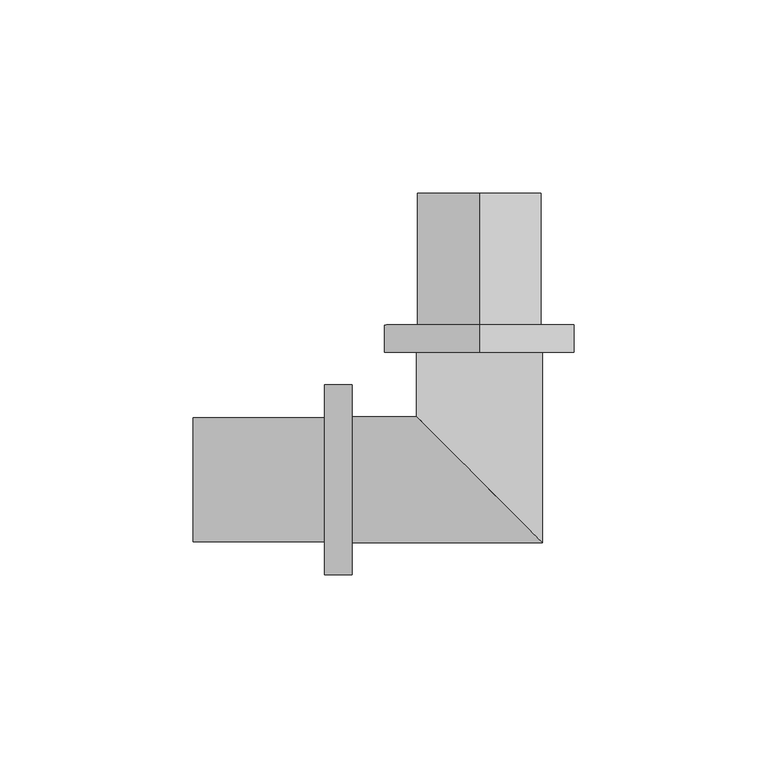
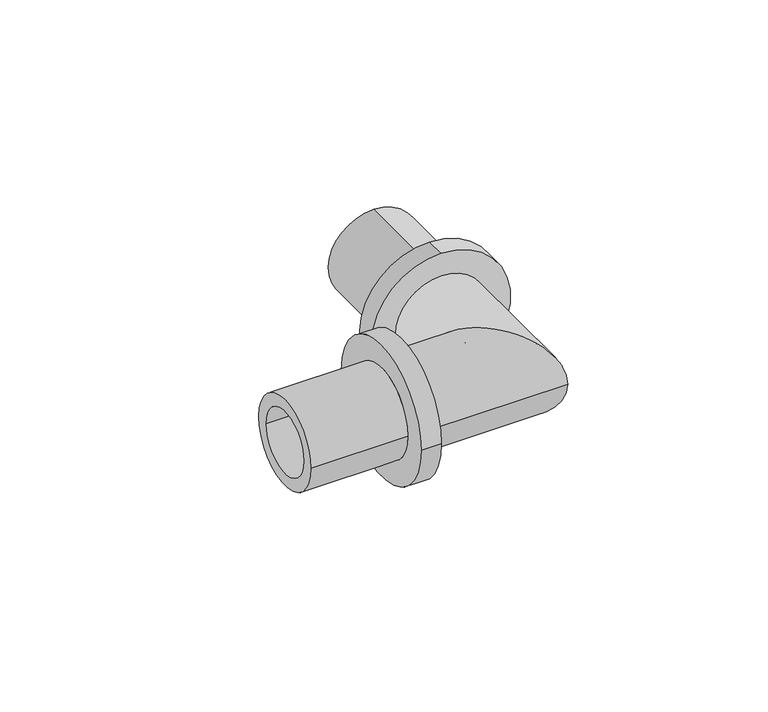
"""IFC4 building model written with IfcOpenShell, lengths in millimetres: pipe fitting geometry, RAUTITAN_Corner_LX : RTI LX C NL."""

from ifc_helpers import new_model, si_unit, frame, origin, place, context, project, spatial, polyline, circle_curve, ellipse_curve, source, transform, mapped, element, save
from ifc_brep_helpers import plane_surface, cylinder_surface, revolved_surface, advanced_brep


def pipe_fitting_9b72dc0c(model_context):
    return source(origin(), model_context, "Body", "AdvancedBrep", [
        advanced_brep(
        [(0.0, 40.0, 24.5), (0.0, 40.0, -24.5), (0.0, 33.0, -24.5), (0.0, 33.0, 24.5), (0.0, 74.0, 16.0), (0.0, 74.0, -16.0), (0.0, 40.0, -16.0), (0.0, 40.0, 16.0), (0.0, 33.0, 11.5), (0.0, 33.0, -11.5), (0.0, 74.0, -11.5), (0.0, 74.0, 11.5)],
        [
            (0, 1, circle_curve(frame((0.0, 40.0, 0.0), z_axis=(0.0, -1.0, 0.0), x_axis=(0.0, 0.0, -1.0)), 24.5)),
            (1, 2),
            (2, 3, circle_curve(frame((0.0, 33.0, 0.0), z_axis=(0.0, 1.0, 0.0), x_axis=(0.0, 0.0, -1.0)), 24.5)),
            (3, 0),
            (4, 5, circle_curve(frame((0.0, 74.0, 0.0), z_axis=(0.0, -1.0, 0.0), x_axis=(0.0, 0.0, -1.0)), 16.0)),
            (5, 6),
            (6, 7, circle_curve(frame((0.0, 40.0, 0.0), z_axis=(0.0, 1.0, 0.0), x_axis=(0.0, 0.0, -1.0)), 16.0)),
            (7, 4),
            (8, 9, circle_curve(frame((0.0, 33.0, 0.0), z_axis=(0.0, -1.0, 0.0), x_axis=(0.0, 0.0, -1.0)), 11.5)),
            (9, 10),
            (10, 11, circle_curve(frame((0.0, 74.0, 0.0), z_axis=(0.0, 1.0, 0.0), x_axis=(0.0, 0.0, -1.0)), 11.5)),
            (11, 8),
            (1, 0, circle_curve(frame((0.0, 40.0, 0.0), z_axis=(0.0, -1.0, 0.0), x_axis=(0.0, 0.0, 1.0)), 24.5)),
            (3, 2, circle_curve(frame((0.0, 33.0, 0.0), z_axis=(0.0, 1.0, 0.0), x_axis=(0.0, 0.0, 1.0)), 24.5)),
            (6, 7, circle_curve(frame((0.0, 40.0, 0.0), z_axis=(0.0, -1.0, 0.0), x_axis=(0.0, 0.0, 1.0)), 16.0)),
            (5, 4, circle_curve(frame((0.0, 74.0, 0.0), z_axis=(0.0, -1.0, 0.0), x_axis=(0.0, 0.0, 1.0)), 16.0)),
            (10, 11, circle_curve(frame((0.0, 74.0, 0.0), z_axis=(0.0, -1.0, 0.0), x_axis=(0.0, 0.0, 1.0)), 11.5)),
            (9, 8, circle_curve(frame((0.0, 33.0, 0.0), z_axis=(0.0, -1.0, 0.0), x_axis=(0.0, 0.0, 1.0)), 11.5)),
        ],
        [
            cylinder_surface(frame((0.0, 33.0, 0.0), z_axis=(0.0, 1.0, 0.0), x_axis=(0.0, 0.0, -1.0)), 24.5),
            cylinder_surface(frame((0.0, 33.0, 0.0), z_axis=(0.0, 1.0, 0.0), x_axis=(0.0, 0.0, -1.0)), 16.0),
            revolved_surface(polyline([(0.0, 74.0, -11.5), (0.0, 33.0, -11.5)]), (0.0, 33.0, 0.0), (0.0, 1.0, 0.0)),
            cylinder_surface(frame((0.0, 33.0, 0.0), z_axis=(0.0, 1.0, 0.0), x_axis=(0.0, 0.0, 1.0)), 24.5),
            plane_surface(frame((0.0, 40.0, 0.0), z_axis=(0.0, 1.0, 0.0), x_axis=(0.0, 0.0, 1.0))),
            cylinder_surface(frame((0.0, 33.0, 0.0), z_axis=(0.0, 1.0, 0.0), x_axis=(0.0, 0.0, 1.0)), 16.0),
            plane_surface(frame((0.0, 74.0, 0.0), z_axis=(0.0, 1.0, 0.0), x_axis=(0.0, 0.0, 1.0))),
            revolved_surface(polyline([(0.0, 74.0, 11.5), (0.0, 33.0, 11.5)]), (0.0, 33.0, 0.0), (0.0, 1.0, 0.0)),
            plane_surface(frame((0.0, 33.0, 0.0), z_axis=(0.0, -1.0, 0.0), x_axis=(0.0, 0.0, 1.0))),
        ],
        [
            (0, [[1, 2, 3, 4]]),
            (1, [[5, 6, 7, 8]]),
            (2, [[9, 10, 11, 12]]),
            (3, [[13, -4, 14, -2]]),
            (4, [[-13, -1], [15, -7]]),
            (5, [[16, -8, -15, -6]]),
            (6, [[-16, -5], [17, -11]]),
            (7, [[18, -12, -17, -10]]),
            (8, [[-14, -3], [-18, -9]]),
        ],
    ),
        advanced_brep(
        [(-40.0, -24.5, 0.0), (-40.0, 24.5, 0.0), (-33.0, 24.5, 0.0), (-33.0, -24.5, 0.0), (-74.0, -16.0, 0.0), (-74.0, 16.0, 0.0), (-40.0, 16.0, 0.0), (-40.0, -16.0, 0.0), (-33.0, -11.5, 0.0), (-33.0, 11.5, 0.0), (-74.0, 11.5, 0.0), (-74.0, -11.5, 0.0)],
        [
            (0, 1, circle_curve(frame((-40.0, 0.0, 0.0), z_axis=(1.0, 0.0, 0.0), x_axis=(0.0, 1.0, 0.0)), 24.5)),
            (1, 2),
            (2, 3, circle_curve(frame((-33.0, 0.0, 0.0), z_axis=(-1.0, 0.0, 0.0), x_axis=(0.0, 1.0, 0.0)), 24.5)),
            (3, 0),
            (4, 5, circle_curve(frame((-74.0, 0.0, 0.0), z_axis=(1.0, 0.0, 0.0), x_axis=(0.0, 1.0, 0.0)), 16.0)),
            (5, 6),
            (6, 7, circle_curve(frame((-40.0, 0.0, 0.0), z_axis=(-1.0, 0.0, 0.0), x_axis=(0.0, 1.0, 0.0)), 16.0)),
            (7, 4),
            (8, 9, circle_curve(frame((-33.0, 0.0, 0.0), z_axis=(1.0, 0.0, 0.0), x_axis=(0.0, 1.0, 0.0)), 11.5)),
            (9, 10),
            (10, 11, circle_curve(frame((-74.0, 0.0, 0.0), z_axis=(-1.0, 0.0, 0.0), x_axis=(0.0, 1.0, 0.0)), 11.5)),
            (11, 8),
            (1, 0, circle_curve(frame((-40.0, 0.0, 0.0), z_axis=(1.0, 0.0, 0.0), x_axis=(0.0, -1.0, 0.0)), 24.5)),
            (3, 2, circle_curve(frame((-33.0, 0.0, 0.0), z_axis=(-1.0, 0.0, 0.0), x_axis=(0.0, -1.0, 0.0)), 24.5)),
            (6, 7, circle_curve(frame((-40.0, 0.0, 0.0), z_axis=(1.0, 0.0, 0.0), x_axis=(0.0, -1.0, 0.0)), 16.0)),
            (5, 4, circle_curve(frame((-74.0, 0.0, 0.0), z_axis=(1.0, 0.0, 0.0), x_axis=(0.0, -1.0, 0.0)), 16.0)),
            (10, 11, circle_curve(frame((-74.0, 0.0, 0.0), z_axis=(1.0, 0.0, 0.0), x_axis=(0.0, -1.0, 0.0)), 11.5)),
            (9, 8, circle_curve(frame((-33.0, 0.0, 0.0), z_axis=(1.0, 0.0, 0.0), x_axis=(0.0, -1.0, 0.0)), 11.5)),
        ],
        [
            cylinder_surface(frame((-33.0, 0.0, 0.0), z_axis=(-1.0, 0.0, 0.0), x_axis=(0.0, 1.0, 0.0)), 24.5),
            cylinder_surface(frame((-33.0, 0.0, 0.0), z_axis=(-1.0, 0.0, 0.0), x_axis=(0.0, 1.0, 0.0)), 16.0),
            revolved_surface(polyline([(-74.0, 11.5, 0.0), (-33.0, 11.5, 0.0)]), (-33.0, 0.0, 0.0), (-1.0, 0.0, 0.0)),
            cylinder_surface(frame((-33.0, 0.0, 0.0), z_axis=(-1.0, 0.0, 0.0), x_axis=(0.0, -1.0, 0.0)), 24.5),
            plane_surface(frame((-40.0, 0.0, 0.0), z_axis=(-1.0, 0.0, 0.0), x_axis=(0.0, -1.0, 0.0))),
            cylinder_surface(frame((-33.0, 0.0, 0.0), z_axis=(-1.0, 0.0, 0.0), x_axis=(0.0, -1.0, 0.0)), 16.0),
            plane_surface(frame((-74.0, 0.0, 0.0), z_axis=(-1.0, 0.0, 0.0), x_axis=(0.0, -1.0, 0.0))),
            revolved_surface(polyline([(-74.0, -11.5, 0.0), (-33.0, -11.5, 0.0)]), (-33.0, 0.0, 0.0), (-1.0, 0.0, 0.0)),
            plane_surface(frame((-33.0, 0.0, 0.0), z_axis=(1.0, 0.0, 0.0), x_axis=(0.0, -1.0, 0.0))),
        ],
        [
            (0, [[1, 2, 3, 4]]),
            (1, [[5, 6, 7, 8]]),
            (2, [[9, 10, 11, 12]]),
            (3, [[13, -4, 14, -2]]),
            (4, [[-13, -1], [15, -7]]),
            (5, [[16, -8, -15, -6]]),
            (6, [[-16, -5], [17, -11]]),
            (7, [[18, -12, -17, -10]]),
            (8, [[-14, -3], [-18, -9]]),
        ],
    ),
        advanced_brep(
        [(-33.0, -16.3, 0.0), (-33.0, 16.3, 0.0), (-33.0, -11.5, 0.0), (-33.0, 11.5, 0.0), (-11.5, 11.5, 0.0), (11.5, -11.5, 0.0), (16.3, 33.0, 0.0), (-16.3, 33.0, 0.0), (11.5, 33.0, 0.0), (-11.5, 33.0, 0.0), (16.3, -16.3, 0.0), (-16.3, 16.3, 0.0)],
        [
            (0, 1, circle_curve(frame((-33.0, 0.0, 0.0), z_axis=(-1.0, 0.0, 0.0), x_axis=(0.0, 1.0, 0.0)), 16.3)),
            (1, 0, circle_curve(frame((-33.0, 0.0, 0.0), z_axis=(-1.0, 0.0, 0.0), x_axis=(0.0, 1.0, 0.0)), 16.3)),
            (2, 3, circle_curve(frame((-33.0, 0.0, 0.0), z_axis=(1.0, 0.0, 0.0), x_axis=(0.0, 1.0, 0.0)), 11.5)),
            (3, 2, circle_curve(frame((-33.0, 0.0, 0.0), z_axis=(1.0, 0.0, 0.0), x_axis=(0.0, 1.0, 0.0)), 11.5)),
            (3, 4),
            (4, 5, ellipse_curve(frame((0.0, 0.0, 0.0), z_axis=(0.707106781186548, 0.7071067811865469, 0.0), x_axis=(0.7071067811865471, -0.7071067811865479, 0.0)), 16.263456, 11.5)),
            (5, 2),
            (5, 4, ellipse_curve(frame((0.0, 0.0, 0.0), z_axis=(0.707106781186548, 0.7071067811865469, 0.0), x_axis=(0.7071067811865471, -0.7071067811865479, 0.0)), 16.263456, 11.5)),
            (6, 7, circle_curve(frame((0.0, 33.0, 0.0), z_axis=(0.0, 1.0, 0.0), x_axis=(-1.0, 0.0, 0.0)), 16.3)),
            (7, 6, circle_curve(frame((0.0, 33.0, 0.0), z_axis=(0.0, 1.0, 0.0), x_axis=(-1.0, 0.0, 0.0)), 16.3)),
            (8, 9, circle_curve(frame((0.0, 33.0, 0.0), z_axis=(0.0, -1.0, 0.0), x_axis=(-1.0, 0.0, 0.0)), 11.5)),
            (9, 8, circle_curve(frame((0.0, 33.0, 0.0), z_axis=(0.0, -1.0, 0.0), x_axis=(-1.0, 0.0, 0.0)), 11.5)),
            (4, 9),
            (8, 5),
            (0, 10),
            (10, 11, ellipse_curve(frame((0.0, 0.0, 0.0), z_axis=(-0.707106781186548, -0.7071067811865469, 0.0), x_axis=(-0.7071067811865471, 0.7071067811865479, 0.0)), 23.0516811, 16.3)),
            (11, 1),
            (11, 10, ellipse_curve(frame((0.0, 0.0, 0.0), z_axis=(-0.707106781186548, -0.7071067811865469, 0.0), x_axis=(-0.7071067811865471, 0.7071067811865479, 0.0)), 23.0516811, 16.3)),
            (10, 6),
            (7, 11),
        ],
        [
            plane_surface(frame((-33.0, 0.0, 0.0), z_axis=(-1.0, 0.0, 0.0), x_axis=(0.0, 0.0, 1.0))),
            revolved_surface(polyline([(11.50000002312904, 11.5, 0.0), (-33.0, 11.5, 0.0)]), (-33.0, 0.0, 0.0), (1.0, 0.0, 0.0)),
            plane_surface(frame((0.0, 33.0, 0.0), z_axis=(0.0, 1.0, 0.0), x_axis=(0.0, 0.0, 1.0))),
            revolved_surface(polyline([(-11.5, 33.0, 0.0), (-11.5, -11.50000002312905, 0.0)]), (0.0, 0.0, 0.0), (0.0, 1.0, 0.0)),
            cylinder_surface(frame((-33.0, 0.0, 0.0), z_axis=(-1.0, 0.0, 0.0), x_axis=(0.0, 1.0, 0.0)), 16.3),
            cylinder_surface(frame((0.0, 0.0, 0.0), z_axis=(0.0, -1.0, 0.0), x_axis=(-1.0, 0.0, 0.0)), 16.3),
        ],
        [
            (0, [[1, 2], [3, 4]]),
            (1, [[-4, 5, 6, 7]]),
            (1, [[-3, -7, 8, -5]]),
            (2, [[9, 10], [11, 12]]),
            (3, [[-6, 13, -11, 14]]),
            (3, [[-8, -14, -12, -13]]),
            (4, [[-1, 15, 16, 17]]),
            (4, [[-2, -17, 18, -15]]),
            (5, [[-16, 19, -10, 20]]),
            (5, [[-18, -20, -9, -19]]),
        ],
    ),
    ])


if __name__ == "__main__":
    model = new_model("IFC4")
    model_context = context("Model", 3, world=origin())
    ifc_project = project(units=[si_unit("LENGTHUNIT", "METRE", prefix="MILLI")], contexts=[model_context])
    site = spatial("IfcSite", under=ifc_project)
    building = spatial("IfcBuilding", under=site)
    placement = place(None, origin())
    pipe_fitting_shape = pipe_fitting_9b72dc0c(model_context)
    element("IfcPipeFitting", 1, ObjectType="RAUTITAN_Corner_LX : RTI LX C NL", at=placement, inside=building, context=model_context, shape_type="MappedRepresentation", body=[
        mapped(pipe_fitting_shape, transform((0.0, 0.0, 0.0), x_axis=(1.0, 0.0, 0.0), y_axis=(0.0, 1.0, 0.0), z_axis=(0.0, 0.0, 1.0))),
    ])
    save(model, "model.ifc")
